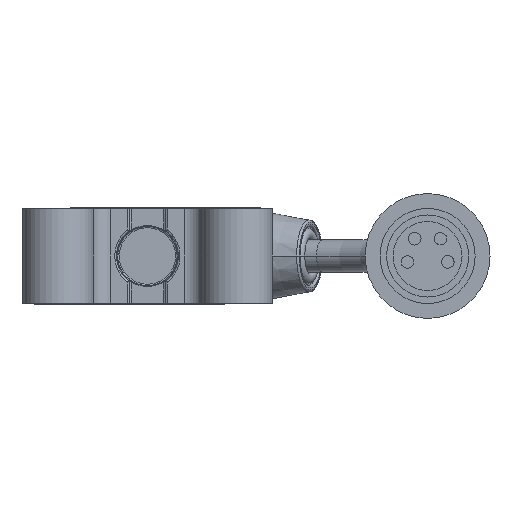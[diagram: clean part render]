
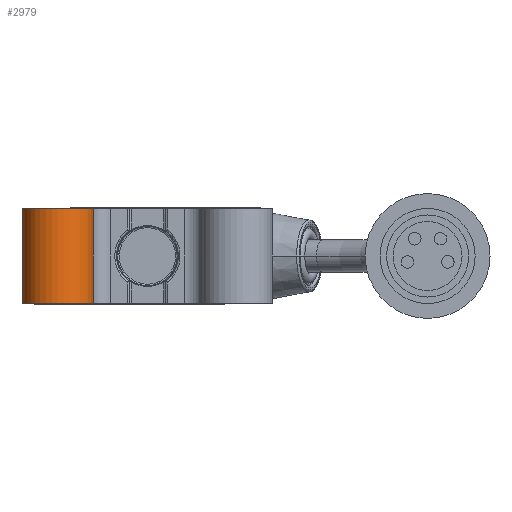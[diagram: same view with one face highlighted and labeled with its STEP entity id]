
A CAD part, left-side view. The second image highlights one B-rep face of the part: STEP entity #2979.
In plain terms, the highlighted cylindrical face has radius 3 mm (diameter 6 mm), a partial arc.
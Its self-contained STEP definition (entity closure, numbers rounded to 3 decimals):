
#258=CARTESIAN_POINT('',(0.,15.,-3.99));
#259=DIRECTION('',(0.,0.,-1.));
#260=DIRECTION('',(-1.,0.,0.));
#261=AXIS2_PLACEMENT_3D('',#258,#259,#260);
#263=CARTESIAN_POINT('',(0.,15.,-3.99));
#264=DIRECTION('',(0.,0.,-1.));
#265=DIRECTION('',(-0.222,-0.975,0.));
#266=AXIS2_PLACEMENT_3D('',#263,#264,#265);
#437=CARTESIAN_POINT('',(0.,15.,3.99));
#438=DIRECTION('',(0.,0.,1.));
#439=DIRECTION('',(-1.,0.,0.));
#440=AXIS2_PLACEMENT_3D('',#437,#438,#439);
#442=CARTESIAN_POINT('',(0.,15.,3.99));
#443=DIRECTION('',(0.,0.,1.));
#444=DIRECTION('',(0.,1.,0.));
#445=AXIS2_PLACEMENT_3D('',#442,#443,#444);
#645=DIRECTION('',(0.,0.,-1.));
#646=VECTOR('',#645,7.98);
#647=CARTESIAN_POINT('',(0.,18.,3.99));
#648=LINE('',#647,#646);
#649=DIRECTION('',(0.,0.,1.));
#650=VECTOR('',#649,7.98);
#651=CARTESIAN_POINT('',(-0.667,12.075,-3.99));
#652=LINE('',#651,#650);
#1536=CARTESIAN_POINT('',(0.,18.,3.99));
#1537=CARTESIAN_POINT('',(-3.,15.,3.99));
#1538=VERTEX_POINT('',#1536);
#1539=VERTEX_POINT('',#1537);
#1540=CARTESIAN_POINT('',(-0.667,12.075,3.99));
#1541=VERTEX_POINT('',#1540);
#1599=CARTESIAN_POINT('',(0.,18.,-3.99));
#1600=VERTEX_POINT('',#1599);
#1601=CARTESIAN_POINT('',(-3.,15.,-3.99));
#1602=VERTEX_POINT('',#1601);
#1603=CARTESIAN_POINT('',(-0.667,12.075,-3.99));
#1604=VERTEX_POINT('',#1603);
#2965=CARTESIAN_POINT('',(0.,15.,3.99));
#2966=DIRECTION('',(0.,0.,-1.));
#2967=DIRECTION('',(-1.,0.,0.));
#2968=AXIS2_PLACEMENT_3D('',#2965,#2966,#2967);
#2969=CYLINDRICAL_SURFACE('',#2968,3.);
#2970=ORIENTED_EDGE('',*,*,#2235,.T.);
#2972=ORIENTED_EDGE('',*,*,#2971,.F.);
#2973=ORIENTED_EDGE('',*,*,#2575,.T.);
#2974=ORIENTED_EDGE('',*,*,#2573,.T.);
#2975=ORIENTED_EDGE('',*,*,#2951,.F.);
#2976=ORIENTED_EDGE('',*,*,#2237,.T.);
#2977=EDGE_LOOP('',(#2970,#2972,#2973,#2974,#2975,#2976));
#2978=FACE_OUTER_BOUND('',#2977,.F.);
#262=CIRCLE('',#261,3.);
#267=CIRCLE('',#266,3.);
#441=CIRCLE('',#440,3.);
#446=CIRCLE('',#445,3.);
#2235=EDGE_CURVE('',#1602,#1600,#262,.T.);
#2237=EDGE_CURVE('',#1604,#1602,#267,.T.);
#2573=EDGE_CURVE('',#1539,#1541,#441,.T.);
#2575=EDGE_CURVE('',#1538,#1539,#446,.T.);
#2951=EDGE_CURVE('',#1604,#1541,#652,.T.);
#2971=EDGE_CURVE('',#1538,#1600,#648,.T.);
#2979=ADVANCED_FACE('',(#2978),#2969,.T.);
